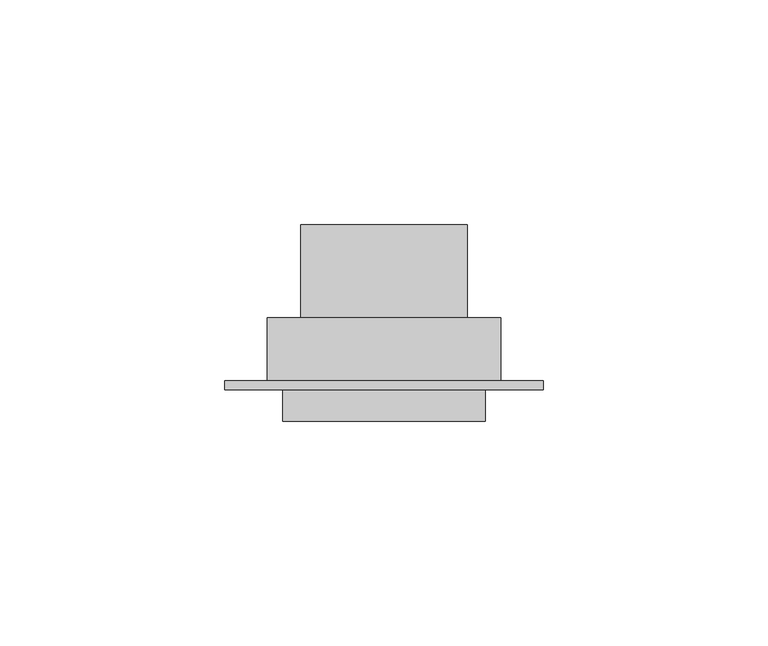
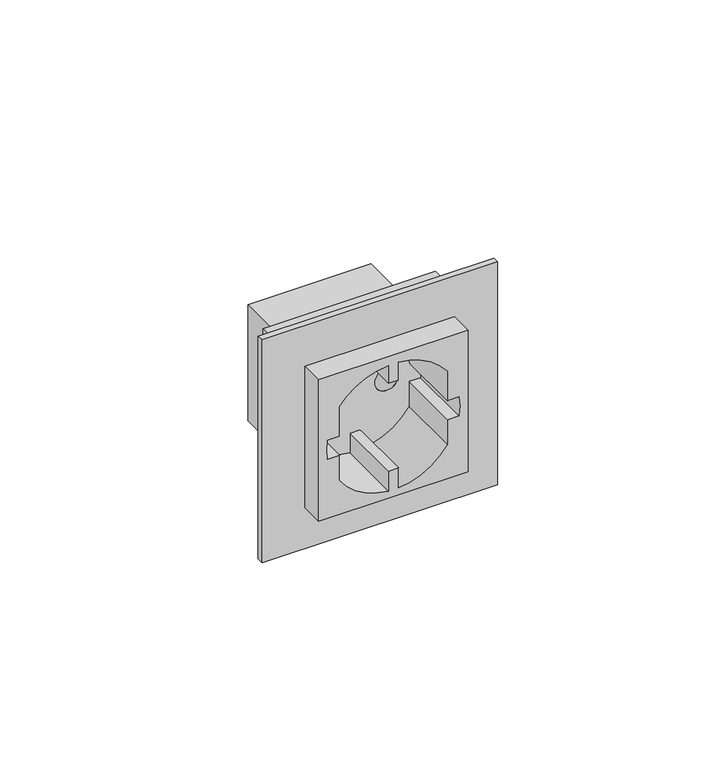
"""IFC4 building model written with IfcOpenShell, lengths in millimetres: proxy geometry."""

from ifc_helpers import new_model, si_unit, frame, origin, place, context, project, spatial, polyline, circle_curve, source, transform, mapped, element, save
from ifc_brep_helpers import plane_surface, revolved_surface, advanced_brep


def electrical_fixtures_3f9b09d0(model_context):
    return source(origin(), model_context, "Body", "AdvancedBrep", [
        advanced_brep(
        [(22.5, -43.7, -22.5), (22.5, -43.7, 22.5), (-22.5, -43.7, 22.5), (-22.5, -43.7, -22.5), (-19.7737199, -43.7, 2.25), (-16.2525449, -43.7, 2.25), (-16.2525449, -43.7, 11.6556761), (-1.5019291, -43.7, 19.6409348), (-1.5019291, -43.7, 13.9435255), (1.5019291, -43.7, 13.9435255), (1.5019291, -43.7, 19.6409348), (16.2525449, -43.7, 11.6556761), (16.2525449, -43.7, 2.25), (19.7737199, -43.7, 2.25), (19.7737199, -43.7, -3.75), (16.2525449, -43.7, -3.75), (16.2525449, -43.7, -11.6556761), (1.5019291, -43.7, -20.2646918), (1.5019291, -43.7, -13.9435255), (-1.5019291, -43.7, -13.9435255), (-1.5019291, -43.7, -20.2646918), (-16.2525449, -43.7, -11.6556761), (-16.2525449, -43.7, -3.75), (-19.7737199, -43.7, -3.75), (-22.5, -36.7, -22.5), (22.5, -36.7, -22.5), (-22.5, -36.7, 22.5), (22.5, -36.7, 22.5), (-19.7737199, -23.7, 2.25), (-19.7737199, -23.7, -3.75), (-16.2525449, -23.7, -3.75), (-16.2525449, -23.7, -11.6556761), (-1.5019291, -23.7, -20.2646918), (-1.5019291, -23.7, -13.9435255), (1.5019291, -23.7, -13.9435255), (1.5019291, -23.7, -20.2646918), (16.2525449, -23.7, -11.6556761), (16.2525449, -23.7, -3.75), (19.7737199, -23.7, -3.75), (19.7737199, -23.7, 2.25), (16.2525449, -23.7, 2.25), (16.2525449, -23.7, 11.6556761), (1.5019291, -23.7, 19.6409348), (1.5019291, -23.7, 13.9435255), (-1.5019291, -23.7, 13.9435255), (-1.5019291, -23.7, 19.6409348), (-16.2525449, -23.7, 11.6556761), (-16.2525449, -23.7, 2.25), (-13.0, -23.7, -0.75), (-6.0, -23.7, -0.75), (6.0, -23.7, -0.75), (13.0, -23.7, -0.75), (35.45, -34.7, -35.45), (-35.45, -34.7, -35.45), (-35.45, -34.7, 35.45), (35.45, -34.7, 35.45), (-26.0, -34.7, -26.0), (26.0, -34.7, -26.0), (26.0, -34.7, 26.0), (-26.0, -34.7, 26.0), (35.45, -36.7, -35.45), (35.45, -36.7, 35.45), (-35.45, -36.7, 35.45), (-35.45, -36.7, -35.45), (26.0, -20.7, -26.0), (-26.0, -20.7, -26.0), (-26.0, -20.7, 26.0), (26.0, -20.7, 26.0), (-18.5, -20.7, -18.5), (18.5, -20.7, -18.5), (18.5, -20.7, 18.5), (-18.5, -20.7, 18.5), (-13.0, -3.7, -0.75), (-6.0, -3.7, -0.75), (6.0, -3.7, -0.75), (13.0, -3.7, -0.75), (18.5, 0.0, -18.5), (-18.5, 0.0, -18.5), (-18.5, 0.0, 18.5), (18.5, 0.0, 18.5)],
        [
            (0, 1),
            (1, 2),
            (2, 3),
            (3, 0),
            (4, 5),
            (5, 6),
            (6, 7, circle_curve(frame((0.0, -43.7, -0.75), z_axis=(0.0, 1.0, 0.0), x_axis=(1.0, 0.0, 0.0)), 20.4461736)),
            (7, 8),
            (8, 9),
            (9, 10),
            (10, 11, circle_curve(frame((0.0, -43.7, -0.75), z_axis=(0.0, 1.0, 0.0), x_axis=(1.0, 0.0, 0.0)), 20.4461736)),
            (11, 12),
            (12, 13),
            (13, 14, circle_curve(frame((0.0, -43.7, -0.75), z_axis=(0.0, 1.0, 0.0), x_axis=(1.0, 0.0, 0.0)), 20.0)),
            (14, 15),
            (15, 16),
            (16, 17, circle_curve(frame((0.0, -43.7, -0.75), z_axis=(0.0, 1.0, 0.0), x_axis=(1.0, 0.0, 0.0)), 19.5724037)),
            (17, 18),
            (18, 19),
            (19, 20),
            (20, 21, circle_curve(frame((0.0, -43.7, -0.75), z_axis=(0.0, 1.0, 0.0), x_axis=(1.0, 0.0, 0.0)), 19.5724037)),
            (21, 22),
            (22, 23),
            (23, 4, circle_curve(frame((0.0, -43.7, -0.75), z_axis=(0.0, 1.0, 0.0), x_axis=(1.0, 0.0, 0.0)), 20.0)),
            (3, 24),
            (24, 25),
            (25, 0),
            (2, 26),
            (26, 24),
            (1, 27),
            (27, 26),
            (25, 27),
            (28, 29, circle_curve(frame((0.0, -23.7, -0.75), z_axis=(0.0, -1.0, 0.0), x_axis=(1.0, 0.0, 0.0)), 20.0)),
            (29, 30),
            (30, 31),
            (31, 32, circle_curve(frame((0.0, -23.7, -0.75), z_axis=(0.0, -1.0, 0.0), x_axis=(1.0, 0.0, 0.0)), 19.5724037)),
            (32, 33),
            (33, 34),
            (34, 35),
            (35, 36, circle_curve(frame((0.0, -23.7, -0.75), z_axis=(0.0, -1.0, 0.0), x_axis=(1.0, 0.0, 0.0)), 19.5724037)),
            (36, 37),
            (37, 38),
            (38, 39, circle_curve(frame((0.0, -23.7, -0.75), z_axis=(0.0, -1.0, 0.0), x_axis=(1.0, 0.0, 0.0)), 20.0)),
            (39, 40),
            (40, 41),
            (41, 42, circle_curve(frame((0.0, -23.7, -0.75), z_axis=(0.0, -1.0, 0.0), x_axis=(1.0, 0.0, 0.0)), 20.4461736)),
            (42, 43),
            (43, 44),
            (44, 45),
            (45, 46, circle_curve(frame((0.0, -23.7, -0.75), z_axis=(0.0, -1.0, 0.0), x_axis=(1.0, 0.0, 0.0)), 20.4461736)),
            (46, 47),
            (47, 28),
            (48, 49, circle_curve(frame((-9.5, -23.7, -0.75), z_axis=(0.0, 1.0, 0.0), x_axis=(1.0, 0.0, 0.0)), 3.5)),
            (49, 48, circle_curve(frame((-9.5, -23.7, -0.75), z_axis=(0.0, 1.0, 0.0), x_axis=(1.0, 0.0, 0.0)), 3.5)),
            (50, 51, circle_curve(frame((9.5, -23.7, -0.75), z_axis=(0.0, 1.0, 0.0), x_axis=(1.0, 0.0, 0.0)), 3.5)),
            (51, 50, circle_curve(frame((9.5, -23.7, -0.75), z_axis=(0.0, 1.0, 0.0), x_axis=(1.0, 0.0, 0.0)), 3.5)),
            (47, 5),
            (4, 28),
            (46, 6),
            (45, 7),
            (44, 8),
            (43, 9),
            (42, 10),
            (41, 11),
            (40, 12),
            (39, 13),
            (38, 14),
            (37, 15),
            (36, 16),
            (35, 17),
            (34, 18),
            (33, 19),
            (32, 20),
            (31, 21),
            (30, 22),
            (29, 23),
            (52, 53),
            (53, 54),
            (54, 55),
            (55, 52),
            (56, 57),
            (57, 58),
            (58, 59),
            (59, 56),
            (60, 61),
            (61, 62),
            (62, 63),
            (63, 60),
            (52, 60),
            (63, 53),
            (62, 54),
            (61, 55),
            (64, 65),
            (65, 66),
            (66, 67),
            (67, 64),
            (68, 69),
            (69, 70),
            (70, 71),
            (71, 68),
            (64, 57),
            (56, 65),
            (59, 66),
            (58, 67),
            (72, 73, circle_curve(frame((-9.5, -3.7, -0.75), z_axis=(0.0, -1.0, 0.0), x_axis=(1.0, 0.0, 0.0)), 3.5)),
            (73, 72, circle_curve(frame((-9.5, -3.7, -0.75), z_axis=(0.0, -1.0, 0.0), x_axis=(1.0, 0.0, 0.0)), 3.5)),
            (74, 75, circle_curve(frame((9.5, -3.7, -0.75), z_axis=(0.0, -1.0, 0.0), x_axis=(1.0, 0.0, 0.0)), 3.5)),
            (75, 74, circle_curve(frame((9.5, -3.7, -0.75), z_axis=(0.0, -1.0, 0.0), x_axis=(1.0, 0.0, 0.0)), 3.5)),
            (73, 49),
            (48, 72),
            (75, 51),
            (50, 74),
            (76, 77),
            (77, 78),
            (78, 79),
            (79, 76),
            (76, 69),
            (68, 77),
            (71, 78),
            (70, 79),
        ],
        [
            plane_surface(frame((-22.5, -43.7, -22.5), z_axis=(0.0, -1.0, 0.0), x_axis=(1.0, 0.0, 0.0))),
            plane_surface(frame((22.5, -36.7, -22.5), z_axis=(0.0, 0.0, -1.0), x_axis=(0.0, -1.0, 0.0))),
            plane_surface(frame((-22.5, -36.7, -22.5), z_axis=(-1.0, 0.0, 0.0), x_axis=(0.0, -1.0, 0.0))),
            plane_surface(frame((-22.5, -36.7, 22.5), z_axis=(0.0, 0.0, 1.0), x_axis=(0.0, -1.0, 0.0))),
            plane_surface(frame((22.5, -36.7, 22.5), z_axis=(1.0, 0.0, 0.0), x_axis=(0.0, -1.0, 0.0))),
            plane_surface(frame((-19.7737199, -23.7, 2.25), z_axis=(0.0, -1.0, 0.0), x_axis=(1.0, 0.0, 0.0))),
            plane_surface(frame((-19.7737199, -23.7, 2.25), z_axis=(0.0, 0.0, -1.0), x_axis=(0.0, -1.0, 0.0))),
            plane_surface(frame((-16.2525449, -23.7, 2.25), z_axis=(1.0, 0.0, 0.0), x_axis=(0.0, -1.0, 0.0))),
            revolved_surface(polyline([(20.4461736, -23.7, -0.75), (20.4461736, -43.7, -0.75)]), (0.0, -43.7, -0.75), (0.0, 1.0, 0.0)),
            plane_surface(frame((-1.5019291, -23.7, 19.6409348), z_axis=(-1.0, 0.0, 0.0), x_axis=(0.0, -1.0, 0.0))),
            plane_surface(frame((-1.5019291, -23.7, 13.9435255), z_axis=(0.0, 0.0, -1.0), x_axis=(0.0, -1.0, 0.0))),
            plane_surface(frame((1.5019291, -23.7, 13.9435255), z_axis=(1.0, 0.0, 0.0), x_axis=(0.0, -1.0, 0.0))),
            plane_surface(frame((16.2525449, -23.7, 11.6556761), z_axis=(-1.0, 0.0, 0.0), x_axis=(0.0, -1.0, 0.0))),
            plane_surface(frame((16.2525449, -23.7, 2.25), z_axis=(0.0, 0.0, -1.0), x_axis=(0.0, -1.0, 0.0))),
            revolved_surface(polyline([(20.0, -23.7, -0.75), (20.0, -43.7, -0.75)]), (0.0, -43.7, -0.75), (0.0, 1.0, 0.0)),
            plane_surface(frame((19.7737199, -23.7, -3.75), z_axis=(0.0, 0.0, 1.0), x_axis=(0.0, -1.0, 0.0))),
            plane_surface(frame((16.2525449, -23.7, -3.75), z_axis=(-1.0, 0.0, 0.0), x_axis=(0.0, -1.0, 0.0))),
            revolved_surface(polyline([(19.5724037, -23.7, -0.75), (19.5724037, -43.7, -0.75)]), (0.0, -43.7, -0.75), (0.0, 1.0, 0.0)),
            plane_surface(frame((1.5019291, -23.7, -20.2646918), z_axis=(1.0, 0.0, 0.0), x_axis=(0.0, -1.0, 0.0))),
            plane_surface(frame((1.5019291, -23.7, -13.9435255), z_axis=(0.0, 0.0, 1.0), x_axis=(0.0, -1.0, 0.0))),
            plane_surface(frame((-1.5019291, -23.7, -13.9435255), z_axis=(-1.0, 0.0, 0.0), x_axis=(0.0, -1.0, 0.0))),
            plane_surface(frame((-16.2525449, -23.7, -11.6556761), z_axis=(1.0, 0.0, 0.0), x_axis=(0.0, -1.0, 0.0))),
            plane_surface(frame((-16.2525449, -23.7, -3.75), z_axis=(0.0, 0.0, 1.0), x_axis=(0.0, -1.0, 0.0))),
            plane_surface(frame((-35.45, -34.7, -35.45), z_axis=(0.0, 1.0, 0.0), x_axis=(-1.0, 0.0, 0.0))),
            plane_surface(frame((-35.45, -36.7, -35.45), z_axis=(0.0, -1.0, 0.0), x_axis=(1.0, 0.0, 0.0))),
            plane_surface(frame((35.45, -34.7, -35.45), z_axis=(0.0, 0.0, -1.0), x_axis=(0.0, -1.0, 0.0))),
            plane_surface(frame((-35.45, -34.7, -35.45), z_axis=(-1.0, 0.0, 0.0), x_axis=(0.0, -1.0, 0.0))),
            plane_surface(frame((-35.45, -34.7, 35.45), z_axis=(0.0, 0.0, 1.0), x_axis=(0.0, -1.0, 0.0))),
            plane_surface(frame((35.45, -34.7, 35.45), z_axis=(1.0, 0.0, 0.0), x_axis=(0.0, -1.0, 0.0))),
            plane_surface(frame((-26.0, -20.7, -26.0), z_axis=(0.0, 1.0, 0.0), x_axis=(-1.0, 0.0, 0.0))),
            plane_surface(frame((26.0, -20.7, -26.0), z_axis=(0.0, 0.0, -1.0), x_axis=(0.0, -1.0, 0.0))),
            plane_surface(frame((-26.0, -20.7, -26.0), z_axis=(-1.0, 0.0, 0.0), x_axis=(0.0, -1.0, 0.0))),
            plane_surface(frame((-26.0, -20.7, 26.0), z_axis=(0.0, 0.0, 1.0), x_axis=(0.0, -1.0, 0.0))),
            plane_surface(frame((26.0, -20.7, 26.0), z_axis=(1.0, 0.0, 0.0), x_axis=(0.0, -1.0, 0.0))),
            plane_surface(frame((-6.0, -3.7, -0.75), z_axis=(0.0, -1.0, 0.0), x_axis=(0.0, 0.0, -1.0))),
            revolved_surface(polyline([(-6.0, -3.6999999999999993, -0.75), (-6.0, -23.7, -0.75)]), (-9.5, -23.7, -0.75), (0.0, 1.0, 0.0)),
            revolved_surface(polyline([(13.0, -3.6999999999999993, -0.75), (13.0, -23.7, -0.75)]), (9.5, -34.7, -0.75), (0.0, 1.0, 0.0)),
            plane_surface(frame((-18.5, 0.0, -18.5), z_axis=(0.0, 1.0, 0.0), x_axis=(-1.0, 0.0, 0.0))),
            plane_surface(frame((18.5, 0.0, -18.5), z_axis=(0.0, 0.0, -1.0), x_axis=(0.0, -1.0, 0.0))),
            plane_surface(frame((-18.5, 0.0, -18.5), z_axis=(-1.0, 0.0, 0.0), x_axis=(0.0, -1.0, 0.0))),
            plane_surface(frame((-18.5, 0.0, 18.5), z_axis=(0.0, 0.0, 1.0), x_axis=(0.0, -1.0, 0.0))),
            plane_surface(frame((18.5, 0.0, 18.5), z_axis=(1.0, 0.0, 0.0), x_axis=(0.0, -1.0, 0.0))),
        ],
        [
            (0, [[1, 2, 3, 4], [5, 6, 7, 8, 9, 10, 11, 12, 13, 14, 15, 16, 17, 18, 19, 20, 21, 22, 23, 24]]),
            (1, [[-4, 25, 26, 27]]),
            (2, [[-3, 28, 29, -25]]),
            (3, [[-2, 30, 31, -28]]),
            (4, [[-1, -27, 32, -30]]),
            (5, [[33, 34, 35, 36, 37, 38, 39, 40, 41, 42, 43, 44, 45, 46, 47, 48, 49, 50, 51, 52], [53, 54], [55, 56]]),
            (6, [[-52, 57, -5, 58]]),
            (7, [[-51, 59, -6, -57]]),
            (8, [[-50, 60, -7, -59]]),
            (9, [[-49, 61, -8, -60]]),
            (10, [[-48, 62, -9, -61]]),
            (11, [[-47, 63, -10, -62]]),
            (8, [[-46, 64, -11, -63]]),
            (12, [[-45, 65, -12, -64]]),
            (13, [[-44, 66, -13, -65]]),
            (14, [[-43, 67, -14, -66]]),
            (15, [[-42, 68, -15, -67]]),
            (16, [[-41, 69, -16, -68]]),
            (17, [[-40, 70, -17, -69]]),
            (18, [[-39, 71, -18, -70]]),
            (19, [[-38, 72, -19, -71]]),
            (20, [[-37, 73, -20, -72]]),
            (17, [[-36, 74, -21, -73]]),
            (21, [[-35, 75, -22, -74]]),
            (22, [[-34, 76, -23, -75]]),
            (14, [[-33, -58, -24, -76]]),
            (23, [[77, 78, 79, 80], [81, 82, 83, 84]]),
            (24, [[85, 86, 87, 88], [-26, -29, -31, -32]]),
            (25, [[-77, 89, -88, 90]]),
            (26, [[-78, -90, -87, 91]]),
            (27, [[-79, -91, -86, 92]]),
            (28, [[-80, -92, -85, -89]]),
            (29, [[93, 94, 95, 96], [97, 98, 99, 100]]),
            (30, [[-93, 101, -81, 102]]),
            (31, [[-94, -102, -84, 103]]),
            (32, [[-95, -103, -83, 104]]),
            (33, [[-96, -104, -82, -101]]),
            (34, [[105, 106]]),
            (34, [[107, 108]]),
            (35, [[-106, 109, -53, 110]]),
            (35, [[-105, -110, -54, -109]]),
            (36, [[-108, 111, -55, 112]]),
            (36, [[-107, -112, -56, -111]]),
            (37, [[113, 114, 115, 116]]),
            (38, [[-113, 117, -97, 118]]),
            (39, [[-114, -118, -100, 119]]),
            (40, [[-115, -119, -99, 120]]),
            (41, [[-116, -120, -98, -117]]),
        ],
    ),
    ])


if __name__ == "__main__":
    model = new_model("IFC4")
    model_context = context("Model", 3, world=origin())
    ifc_project = project(units=[si_unit("LENGTHUNIT", "METRE", prefix="MILLI")], contexts=[model_context])
    site = spatial("IfcSite", under=ifc_project)
    building = spatial("IfcBuilding", under=site)
    placement = place(None, origin())
    electrical_fixtures_shape = electrical_fixtures_3f9b09d0(model_context)
    element("IfcBuildingElementProxy", 1, Name="Electrical Fixtures", at=placement, inside=building, context=model_context, shape_type="MappedRepresentation", body=[
        mapped(electrical_fixtures_shape, transform((0.0, 0.0, 0.0), x_axis=(1.0, 0.0, 0.0), y_axis=(0.0, 1.0, 0.0), z_axis=(0.0, 0.0, 1.0))),
    ])
    save(model, "model.ifc")
